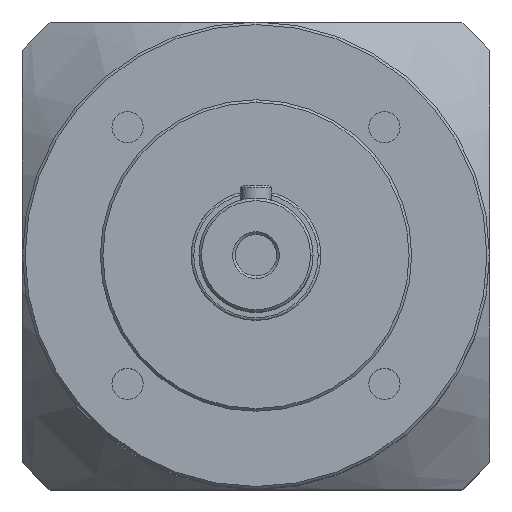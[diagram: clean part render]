
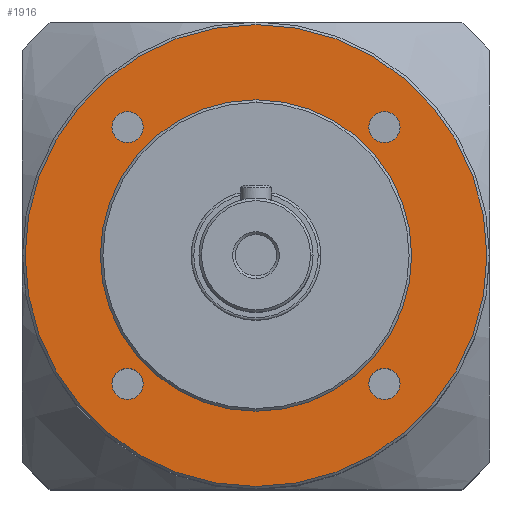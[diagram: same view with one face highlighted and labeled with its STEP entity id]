
A CAD part, top view. The second image highlights one B-rep face of the part: STEP entity #1916.
In plain terms, the highlighted planar face has unit normal (0, 0, 1).
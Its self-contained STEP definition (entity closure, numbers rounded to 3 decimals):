
#1557=CARTESIAN_POINT('',(0.,0.,0.));
#1558=DIRECTION('',(0.,0.,1.));
#1559=DIRECTION('',(0.,1.,0.));
#1560=AXIS2_PLACEMENT_3D('',#1557,#1558,#1559);
#1562=CARTESIAN_POINT('',(0.,0.,0.));
#1563=DIRECTION('',(0.,0.,1.));
#1564=DIRECTION('',(0.,-1.,0.));
#1565=AXIS2_PLACEMENT_3D('',#1562,#1563,#1564);
#1567=CARTESIAN_POINT('',(0.,0.,0.));
#1568=DIRECTION('',(0.,0.,1.));
#1569=DIRECTION('',(-1.,0.,0.));
#1570=AXIS2_PLACEMENT_3D('',#1567,#1568,#1569);
#1572=CARTESIAN_POINT('',(0.,0.,0.));
#1573=DIRECTION('',(0.,0.,1.));
#1574=DIRECTION('',(1.,0.,0.));
#1575=AXIS2_PLACEMENT_3D('',#1572,#1573,#1574);
#1577=CARTESIAN_POINT('',(24.749,24.749,0.));
#1578=DIRECTION('',(0.,0.,1.));
#1579=DIRECTION('',(1.,0.,0.));
#1580=AXIS2_PLACEMENT_3D('',#1577,#1578,#1579);
#1582=CARTESIAN_POINT('',(24.749,24.749,0.));
#1583=DIRECTION('',(0.,0.,1.));
#1584=DIRECTION('',(-1.,0.,0.));
#1585=AXIS2_PLACEMENT_3D('',#1582,#1583,#1584);
#1587=CARTESIAN_POINT('',(-24.749,24.749,0.));
#1588=DIRECTION('',(0.,0.,1.));
#1589=DIRECTION('',(1.,0.,0.));
#1590=AXIS2_PLACEMENT_3D('',#1587,#1588,#1589);
#1592=CARTESIAN_POINT('',(-24.749,24.749,0.));
#1593=DIRECTION('',(0.,0.,1.));
#1594=DIRECTION('',(-1.,0.,0.));
#1595=AXIS2_PLACEMENT_3D('',#1592,#1593,#1594);
#1597=CARTESIAN_POINT('',(-24.749,-24.749,0.));
#1598=DIRECTION('',(0.,0.,1.));
#1599=DIRECTION('',(1.,0.,0.));
#1600=AXIS2_PLACEMENT_3D('',#1597,#1598,#1599);
#1602=CARTESIAN_POINT('',(-24.749,-24.749,0.));
#1603=DIRECTION('',(0.,0.,1.));
#1604=DIRECTION('',(-1.,0.,0.));
#1605=AXIS2_PLACEMENT_3D('',#1602,#1603,#1604);
#1607=CARTESIAN_POINT('',(24.749,-24.749,0.));
#1608=DIRECTION('',(0.,0.,1.));
#1609=DIRECTION('',(1.,0.,0.));
#1610=AXIS2_PLACEMENT_3D('',#1607,#1608,#1609);
#1612=CARTESIAN_POINT('',(24.749,-24.749,0.));
#1613=DIRECTION('',(0.,0.,1.));
#1614=DIRECTION('',(-1.,0.,0.));
#1615=AXIS2_PLACEMENT_3D('',#1612,#1613,#1614);
#1807=CARTESIAN_POINT('',(0.,30.,0.));
#1808=CARTESIAN_POINT('',(0.,-30.,0.));
#1809=VERTEX_POINT('',#1807);
#1810=VERTEX_POINT('',#1808);
#1843=CARTESIAN_POINT('',(27.749,24.749,0.));
#1844=CARTESIAN_POINT('',(21.749,24.749,0.));
#1845=VERTEX_POINT('',#1843);
#1846=VERTEX_POINT('',#1844);
#1847=CARTESIAN_POINT('',(-21.749,24.749,0.));
#1848=CARTESIAN_POINT('',(-27.749,24.749,0.));
#1849=VERTEX_POINT('',#1847);
#1850=VERTEX_POINT('',#1848);
#1851=CARTESIAN_POINT('',(-21.749,-24.749,0.));
#1852=CARTESIAN_POINT('',(-27.749,-24.749,0.));
#1853=VERTEX_POINT('',#1851);
#1854=VERTEX_POINT('',#1852);
#1855=CARTESIAN_POINT('',(27.749,-24.749,0.));
#1856=CARTESIAN_POINT('',(21.749,-24.749,0.));
#1857=VERTEX_POINT('',#1855);
#1858=VERTEX_POINT('',#1856);
#1859=CARTESIAN_POINT('',(-44.5,0.,0.));
#1860=CARTESIAN_POINT('',(44.5,0.,0.));
#1861=VERTEX_POINT('',#1859);
#1862=VERTEX_POINT('',#1860);
#1875=CARTESIAN_POINT('',(0.,0.,0.));
#1876=DIRECTION('',(0.,0.,1.));
#1877=DIRECTION('',(1.,0.,0.));
#1878=AXIS2_PLACEMENT_3D('',#1875,#1876,#1877);
#1879=PLANE('',#1878);
#1881=ORIENTED_EDGE('',*,*,#1880,.F.);
#1883=ORIENTED_EDGE('',*,*,#1882,.F.);
#1884=EDGE_LOOP('',(#1881,#1883));
#1885=FACE_OUTER_BOUND('',#1884,.F.);
#1887=ORIENTED_EDGE('',*,*,#1886,.T.);
#1889=ORIENTED_EDGE('',*,*,#1888,.T.);
#1890=EDGE_LOOP('',(#1887,#1889));
#1891=FACE_BOUND('',#1890,.F.);
#1893=ORIENTED_EDGE('',*,*,#1892,.T.);
#1895=ORIENTED_EDGE('',*,*,#1894,.T.);
#1896=EDGE_LOOP('',(#1893,#1895));
#1897=FACE_BOUND('',#1896,.F.);
#1899=ORIENTED_EDGE('',*,*,#1898,.T.);
#1901=ORIENTED_EDGE('',*,*,#1900,.T.);
#1902=EDGE_LOOP('',(#1899,#1901));
#1903=FACE_BOUND('',#1902,.F.);
#1905=ORIENTED_EDGE('',*,*,#1904,.T.);
#1907=ORIENTED_EDGE('',*,*,#1906,.T.);
#1908=EDGE_LOOP('',(#1905,#1907));
#1909=FACE_BOUND('',#1908,.F.);
#1911=ORIENTED_EDGE('',*,*,#1910,.T.);
#1913=ORIENTED_EDGE('',*,*,#1912,.T.);
#1914=EDGE_LOOP('',(#1911,#1913));
#1915=FACE_BOUND('',#1914,.F.);
#1561=CIRCLE('',#1560,30.);
#1566=CIRCLE('',#1565,30.);
#1571=CIRCLE('',#1570,44.5);
#1576=CIRCLE('',#1575,44.5);
#1581=CIRCLE('',#1580,3.);
#1586=CIRCLE('',#1585,3.);
#1591=CIRCLE('',#1590,3.);
#1596=CIRCLE('',#1595,3.);
#1601=CIRCLE('',#1600,3.);
#1606=CIRCLE('',#1605,3.);
#1611=CIRCLE('',#1610,3.);
#1616=CIRCLE('',#1615,3.);
#1880=EDGE_CURVE('',#1861,#1862,#1571,.T.);
#1882=EDGE_CURVE('',#1862,#1861,#1576,.T.);
#1886=EDGE_CURVE('',#1809,#1810,#1561,.T.);
#1888=EDGE_CURVE('',#1810,#1809,#1566,.T.);
#1892=EDGE_CURVE('',#1845,#1846,#1581,.T.);
#1894=EDGE_CURVE('',#1846,#1845,#1586,.T.);
#1898=EDGE_CURVE('',#1849,#1850,#1591,.T.);
#1900=EDGE_CURVE('',#1850,#1849,#1596,.T.);
#1904=EDGE_CURVE('',#1853,#1854,#1601,.T.);
#1906=EDGE_CURVE('',#1854,#1853,#1606,.T.);
#1910=EDGE_CURVE('',#1857,#1858,#1611,.T.);
#1912=EDGE_CURVE('',#1858,#1857,#1616,.T.);
#1916=ADVANCED_FACE('',(#1885,#1891,#1897,#1903,#1909,#1915),#1879,.T.);
